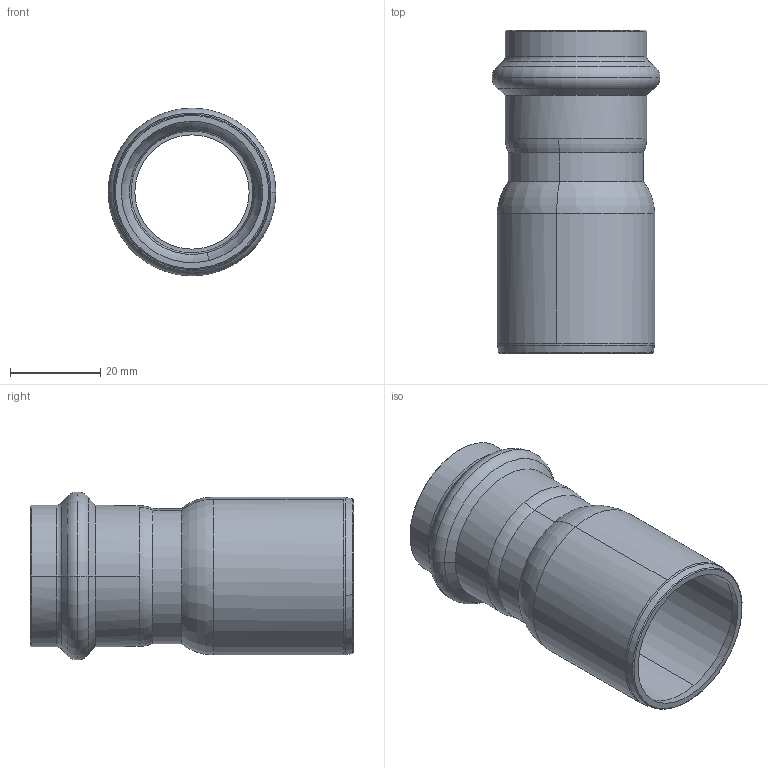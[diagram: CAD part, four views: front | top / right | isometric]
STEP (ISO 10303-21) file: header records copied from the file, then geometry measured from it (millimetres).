
FILE_DESCRIPTION(('CoCreate Modeling STEP Export'),'2;1');
FILE_NAME('8243VW3528.stp','2013-03-05T 9:35:52',(''),(''),'CoCreate Modeling STEP processor for AP214 (Solid Model)','CoCreate Modeling 17.00A 17-Jun-2010 (C) Parametric Technology GmbH','');
FILE_SCHEMA(('AUTOMOTIVE_DESIGN { 1 0 10303 214 1 1 1 1 }'));
Length unit declared in the file: millimetre
Products named in the file (1): 8243VW3528
Bounding box: 37.2 x 71.56 x 37.2 mm (x, y, z)
Volume: 12439 mm3; surface area: 15123.2 mm2
Topology: 1 solids, 1 shells, 60 faces, 149 edges, 93 vertices
Faces by surface type: torus 22, cylinder 18, cone 16, plane 4
Entity records: 1412 total; most frequent: ORIENTED_EDGE 298, CARTESIAN_POINT 213, DIRECTION 206, EDGE_CURVE 149, VERTEX_POINT 93, AXIS2_PLACEMENT_3D 86, EDGE_LOOP 64, FACE_OUTER_BOUND 60
